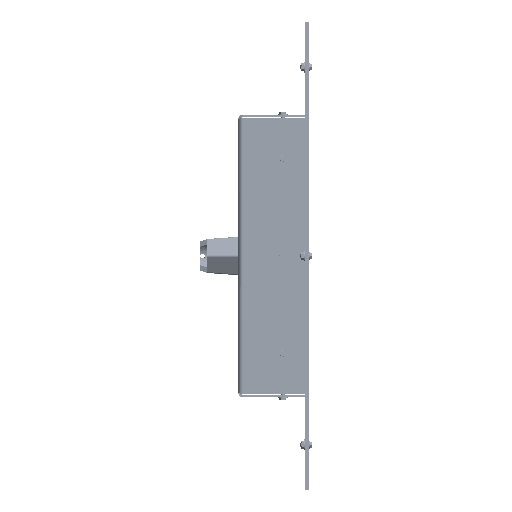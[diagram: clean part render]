
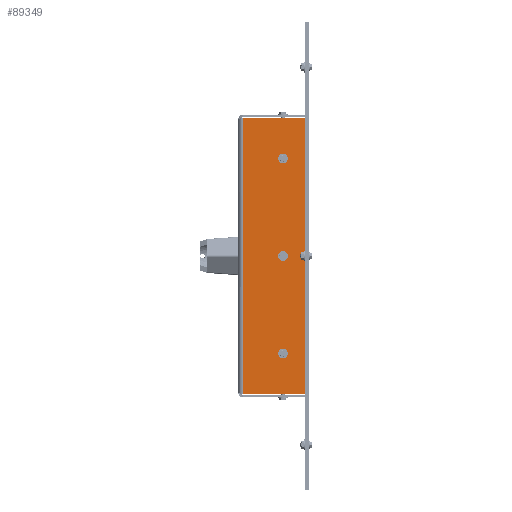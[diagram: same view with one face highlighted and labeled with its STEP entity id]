
A CAD part, left-side view. The second image highlights one B-rep face of the part: STEP entity #89349.
In plain terms, the highlighted planar face has unit normal (-1, 0, 0) as drawn and (1, 0, 0) by its records, which use the part's own axes.
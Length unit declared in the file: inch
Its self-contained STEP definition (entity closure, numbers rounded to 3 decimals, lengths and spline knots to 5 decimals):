
#738 = EDGE_CURVE ( 'NONE', #68046, #7174, #14911, .T. ) ;
#1608 = DIRECTION ( 'NONE',  ( -1., 0., 0. ) ) ;
#1991 = DIRECTION ( 'NONE',  ( 0., -1., 0. ) ) ;
#3821 = CARTESIAN_POINT ( 'NONE',  ( 16.19375, 2.29, 5. ) ) ;
#7174 = VERTEX_POINT ( 'NONE', #32900 ) ;
#7679 = VERTEX_POINT ( 'NONE', #27634 ) ;
#8126 = ORIENTED_EDGE ( 'NONE', *, *, #73991, .T. ) ;
#9300 = CARTESIAN_POINT ( 'NONE',  ( 16.19375, 2.165, 5. ) ) ;
#10688 = DIRECTION ( 'NONE',  ( -1., 0., 0. ) ) ;
#12698 = VERTEX_POINT ( 'NONE', #18420 ) ;
#13500 = AXIS2_PLACEMENT_3D ( 'NONE', #43257, #1608, #50238 ) ;
#14911 = LINE ( 'NONE', #74448, #49698 ) ;
#16308 = DIRECTION ( 'NONE',  ( 0., -1., 0. ) ) ;
#16634 = EDGE_CURVE ( 'NONE', #43979, #89178, #54788, .T. ) ;
#17366 = ORIENTED_EDGE ( 'NONE', *, *, #59544, .T. ) ;
#18420 = CARTESIAN_POINT ( 'NONE',  ( 16.19375, 2.04, -5. ) ) ;
#18845 = DIRECTION ( 'NONE',  ( 0., 0., 1. ) ) ;
#21639 = DIRECTION ( 'NONE',  ( 0., 1., 0. ) ) ;
#24457 = FACE_BOUND ( 'NONE', #26131, .T. ) ;
#25251 = VECTOR ( 'NONE', #88563, 39.37008 ) ;
#25566 = CARTESIAN_POINT ( 'NONE',  ( 16.19375, 2.165, -5. ) ) ;
#26022 = VERTEX_POINT ( 'NONE', #3821 ) ;
#26131 = EDGE_LOOP ( 'NONE', ( #17366, #8126 ) ) ;
#26647 = FACE_BOUND ( 'NONE', #29706, .T. ) ;
#27634 = CARTESIAN_POINT ( 'NONE',  ( 16.19375, 3.4, 7.08466 ) ) ;
#27996 = EDGE_CURVE ( 'NONE', #68046, #38873, #72701, .T. ) ;
#28000 = CIRCLE ( 'NONE', #54092, 0.125 ) ;
#29706 = EDGE_LOOP ( 'NONE', ( #87149, #70978 ) ) ;
#29845 = DIRECTION ( 'NONE',  ( 0., 0., 1. ) ) ;
#30397 = DIRECTION ( 'NONE',  ( -1., 0., 0. ) ) ;
#31070 = EDGE_CURVE ( 'NONE', #7174, #7679, #80748, .T. ) ;
#32578 = DIRECTION ( 'NONE',  ( 0., -1., 0. ) ) ;
#32900 = CARTESIAN_POINT ( 'NONE',  ( 16.19375, 0.1, 7.08466 ) ) ;
#32931 = CARTESIAN_POINT ( 'NONE',  ( 16.19375, 0., 7.08466 ) ) ;
#32932 = CARTESIAN_POINT ( 'NONE',  ( 16.19375, 0.1, -7.08466 ) ) ;
#33567 = VECTOR ( 'NONE', #21639, 39.37008 ) ;
#34144 = CARTESIAN_POINT ( 'NONE',  ( 16.19375, 3.4, -7.08466 ) ) ;
#34355 = CIRCLE ( 'NONE', #61876, 0.125 ) ;
#35765 = CIRCLE ( 'NONE', #45018, 0.125 ) ;
#35840 = EDGE_CURVE ( 'NONE', #12698, #66651, #34355, .T. ) ;
#36050 = ORIENTED_EDGE ( 'NONE', *, *, #738, .F. ) ;
#36650 = EDGE_LOOP ( 'NONE', ( #36050, #66182, #41091, #87372 ) ) ;
#37464 = ORIENTED_EDGE ( 'NONE', *, *, #16634, .T. ) ;
#37567 = DIRECTION ( 'NONE',  ( -1., 0., 0. ) ) ;
#38873 = VERTEX_POINT ( 'NONE', #34144 ) ;
#41091 = ORIENTED_EDGE ( 'NONE', *, *, #64910, .T. ) ;
#41464 = VERTEX_POINT ( 'NONE', #54331 ) ;
#42994 = FACE_BOUND ( 'NONE', #67300, .T. ) ;
#43257 = CARTESIAN_POINT ( 'NONE',  ( 16.19375, 2.165, 0. ) ) ;
#43646 = DIRECTION ( 'NONE',  ( -1., 0., 0. ) ) ;
#43979 = VERTEX_POINT ( 'NONE', #68375 ) ;
#45018 = AXIS2_PLACEMENT_3D ( 'NONE', #25566, #74214, #32578 ) ;
#45472 = EDGE_CURVE ( 'NONE', #66651, #12698, #35765, .T. ) ;
#48168 = EDGE_CURVE ( 'NONE', #89178, #43979, #59135, .T. ) ;
#49520 = LINE ( 'NONE', #50815, #51657 ) ;
#49698 = VECTOR ( 'NONE', #18845, 39.37008 ) ;
#50238 = DIRECTION ( 'NONE',  ( 0., -1., 0. ) ) ;
#50815 = CARTESIAN_POINT ( 'NONE',  ( 16.19375, 3.4, 7.1125 ) ) ;
#51657 = VECTOR ( 'NONE', #29845, 39.37008 ) ;
#52304 = CARTESIAN_POINT ( 'NONE',  ( 16.19375, 2.165, 0. ) ) ;
#53964 = AXIS2_PLACEMENT_3D ( 'NONE', #85257, #43646, #1991 ) ;
#54092 = AXIS2_PLACEMENT_3D ( 'NONE', #79195, #37567, #86191 ) ;
#54331 = CARTESIAN_POINT ( 'NONE',  ( 16.19375, 2.04, 5. ) ) ;
#54788 = CIRCLE ( 'NONE', #13500, 0.125 ) ;
#55506 = CIRCLE ( 'NONE', #70425, 0.125 ) ;
#57909 = DIRECTION ( 'NONE',  ( -1., 0., 0. ) ) ;
#59135 = CIRCLE ( 'NONE', #86527, 0.125 ) ;
#59268 = DIRECTION ( 'NONE',  ( 0., -1., 0. ) ) ;
#59544 = EDGE_CURVE ( 'NONE', #41464, #26022, #55506, .T. ) ;
#61876 = AXIS2_PLACEMENT_3D ( 'NONE', #72020, #30397, #79023 ) ;
#64910 = EDGE_CURVE ( 'NONE', #38873, #7679, #49520, .T. ) ;
#66182 = ORIENTED_EDGE ( 'NONE', *, *, #27996, .T. ) ;
#66651 = VERTEX_POINT ( 'NONE', #84240 ) ;
#67300 = EDGE_LOOP ( 'NONE', ( #37464, #87569 ) ) ;
#68046 = VERTEX_POINT ( 'NONE', #32932 ) ;
#68375 = CARTESIAN_POINT ( 'NONE',  ( 16.19375, 2.04, 0. ) ) ;
#68857 = CARTESIAN_POINT ( 'NONE',  ( 16.19375, 2.29, 0. ) ) ;
#70425 = AXIS2_PLACEMENT_3D ( 'NONE', #9300, #57909, #16308 ) ;
#70978 = ORIENTED_EDGE ( 'NONE', *, *, #45472, .T. ) ;
#71248 = PLANE ( 'NONE',  #53964 ) ;
#72020 = CARTESIAN_POINT ( 'NONE',  ( 16.19375, 2.165, -5. ) ) ;
#72701 = LINE ( 'NONE', #83923, #33567 ) ;
#73991 = EDGE_CURVE ( 'NONE', #26022, #41464, #28000, .T. ) ;
#74214 = DIRECTION ( 'NONE',  ( -1., 0., 0. ) ) ;
#74448 = CARTESIAN_POINT ( 'NONE',  ( 16.19375, 0.1, 0. ) ) ;
#79023 = DIRECTION ( 'NONE',  ( 0., -1., 0. ) ) ;
#79195 = CARTESIAN_POINT ( 'NONE',  ( 16.19375, 2.165, 5. ) ) ;
#79957 = FACE_OUTER_BOUND ( 'NONE', #36650, .T. ) ;
#80748 = LINE ( 'NONE', #32931, #25251 ) ;
#83923 = CARTESIAN_POINT ( 'NONE',  ( 16.19375, 0., -7.08466 ) ) ;
#84240 = CARTESIAN_POINT ( 'NONE',  ( 16.19375, 2.29, -5. ) ) ;
#85257 = CARTESIAN_POINT ( 'NONE',  ( 16.19375, 0., 0. ) ) ;
#86191 = DIRECTION ( 'NONE',  ( 0., -1., 0. ) ) ;
#86527 = AXIS2_PLACEMENT_3D ( 'NONE', #52304, #10688, #59268 ) ;
#87149 = ORIENTED_EDGE ( 'NONE', *, *, #35840, .T. ) ;
#87372 = ORIENTED_EDGE ( 'NONE', *, *, #31070, .F. ) ;
#87569 = ORIENTED_EDGE ( 'NONE', *, *, #48168, .T. ) ;
#88563 = DIRECTION ( 'NONE',  ( 0., 1., 0. ) ) ;
#89178 = VERTEX_POINT ( 'NONE', #68857 ) ;
#89349 = ADVANCED_FACE ( 'NONE', ( #24457, #42994, #26647, #79957 ), #71248, .F. ) ;
